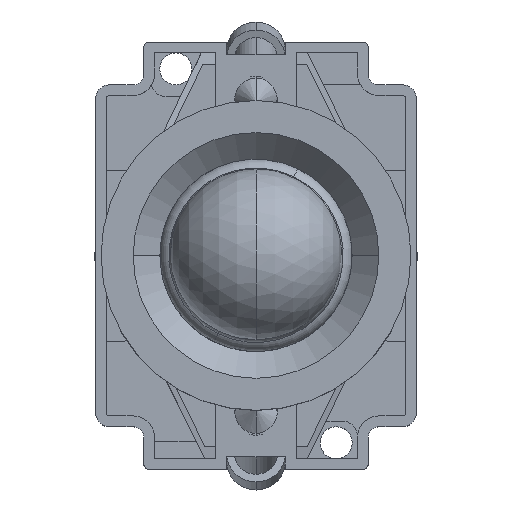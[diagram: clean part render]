
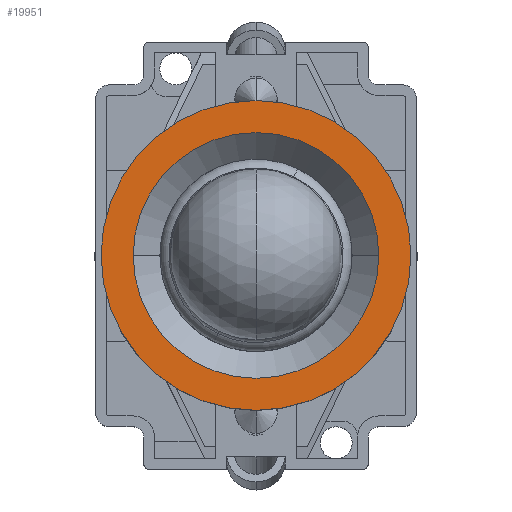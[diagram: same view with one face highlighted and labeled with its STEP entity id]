
A CAD part, top view. The second image highlights one B-rep face of the part: STEP entity #19951.
In plain terms, the highlighted planar face has unit normal (0, 0, 1).
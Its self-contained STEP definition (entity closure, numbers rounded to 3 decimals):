
#793 = EDGE_CURVE ( 'NONE', #19913, #16060, #14432, .T. ) ;
#1419 = DIRECTION ( 'NONE',  ( 1., 0., 0. ) ) ;
#1421 = DIRECTION ( 'NONE',  ( 0., 0., 1. ) ) ;
#1776 = DIRECTION ( 'NONE',  ( 0., 0., 1. ) ) ;
#1933 = VERTEX_POINT ( 'NONE', #13833 ) ;
#3003 = FACE_OUTER_BOUND ( 'NONE', #22626, .T. ) ;
#3560 = AXIS2_PLACEMENT_3D ( 'NONE', #13552, #1776, #15571 ) ;
#4749 = CARTESIAN_POINT ( 'NONE',  ( 0., 14.5, 0. ) ) ;
#5683 = VERTEX_POINT ( 'NONE', #15088 ) ;
#7604 = EDGE_CURVE ( 'NONE', #5683, #1933, #22283, .T. ) ;
#8554 = CARTESIAN_POINT ( 'NONE',  ( 0., 0., 0. ) ) ;
#8571 = CARTESIAN_POINT ( 'NONE',  ( -14.5, 0., 0. ) ) ;
#10498 = DIRECTION ( 'NONE',  ( 1., 0., 0. ) ) ;
#10692 = DIRECTION ( 'NONE',  ( 0., 0., -1. ) ) ;
#11183 = CARTESIAN_POINT ( 'NONE',  ( 14.5, 0., 0. ) ) ;
#11453 = AXIS2_PLACEMENT_3D ( 'NONE', #13198, #1421, #15204 ) ;
#11487 = AXIS2_PLACEMENT_3D ( 'NONE', #8554, #22341, #10498 ) ;
#11588 = ORIENTED_EDGE ( 'NONE', *, *, #12958, .F. ) ;
#12699 = ORIENTED_EDGE ( 'NONE', *, *, #18637, .T. ) ;
#12958 = EDGE_CURVE ( 'NONE', #1933, #5683, #24426, .T. ) ;
#13196 = DIRECTION ( 'NONE',  ( 0., 0., 1. ) ) ;
#13198 = CARTESIAN_POINT ( 'NONE',  ( 0., 0., 0. ) ) ;
#13552 = CARTESIAN_POINT ( 'NONE',  ( 0., 0., 0. ) ) ;
#13833 = CARTESIAN_POINT ( 'NONE',  ( 11.5, 0., 0. ) ) ;
#14050 = AXIS2_PLACEMENT_3D ( 'NONE', #25012, #13196, #1419 ) ;
#14432 = CIRCLE ( 'NONE', #14050, 14.5 ) ;
#15088 = CARTESIAN_POINT ( 'NONE',  ( -11.5, 0., 0. ) ) ;
#15204 = DIRECTION ( 'NONE',  ( 1., 0., 0. ) ) ;
#15303 = ORIENTED_EDGE ( 'NONE', *, *, #7604, .F. ) ;
#15571 = DIRECTION ( 'NONE',  ( 1., 0., 0. ) ) ;
#16060 = VERTEX_POINT ( 'NONE', #11183 ) ;
#16889 = ORIENTED_EDGE ( 'NONE', *, *, #793, .T. ) ;
#18637 = EDGE_CURVE ( 'NONE', #16060, #19913, #23747, .T. ) ;
#18706 = EDGE_LOOP ( 'NONE', ( #11588, #15303 ) ) ;
#19913 = VERTEX_POINT ( 'NONE', #8571 ) ;
#19951 = ADVANCED_FACE ( 'NONE', ( #22725, #3003 ), #22523, .F. ) ;
#21789 = AXIS2_PLACEMENT_3D ( 'NONE', #4749, #10692, #24509 ) ;
#22283 = CIRCLE ( 'NONE', #11487, 11.5 ) ;
#22341 = DIRECTION ( 'NONE',  ( 0., 0., 1. ) ) ;
#22523 = PLANE ( 'NONE',  #21789 ) ;
#22626 = EDGE_LOOP ( 'NONE', ( #12699, #16889 ) ) ;
#22725 = FACE_BOUND ( 'NONE', #18706, .T. ) ;
#23747 = CIRCLE ( 'NONE', #3560, 14.5 ) ;
#24426 = CIRCLE ( 'NONE', #11453, 11.5 ) ;
#24509 = DIRECTION ( 'NONE',  ( -1., 0., 0. ) ) ;
#25012 = CARTESIAN_POINT ( 'NONE',  ( 0., 0., 0. ) ) ;
